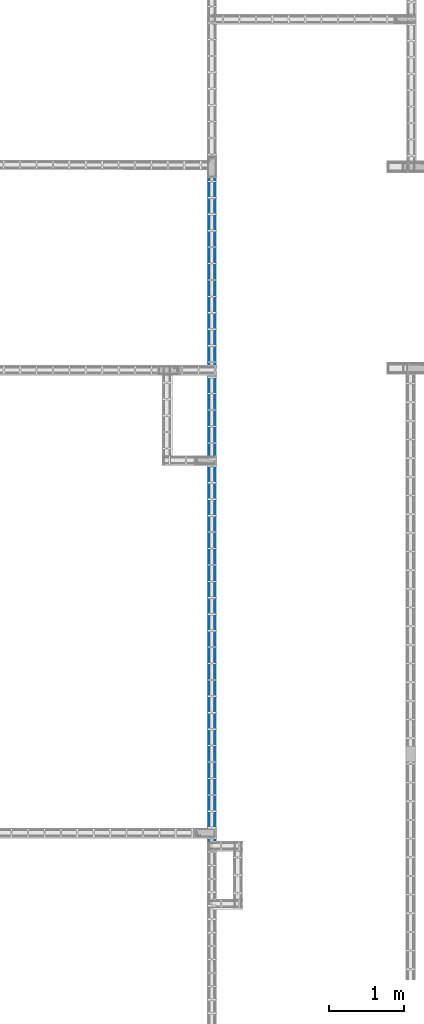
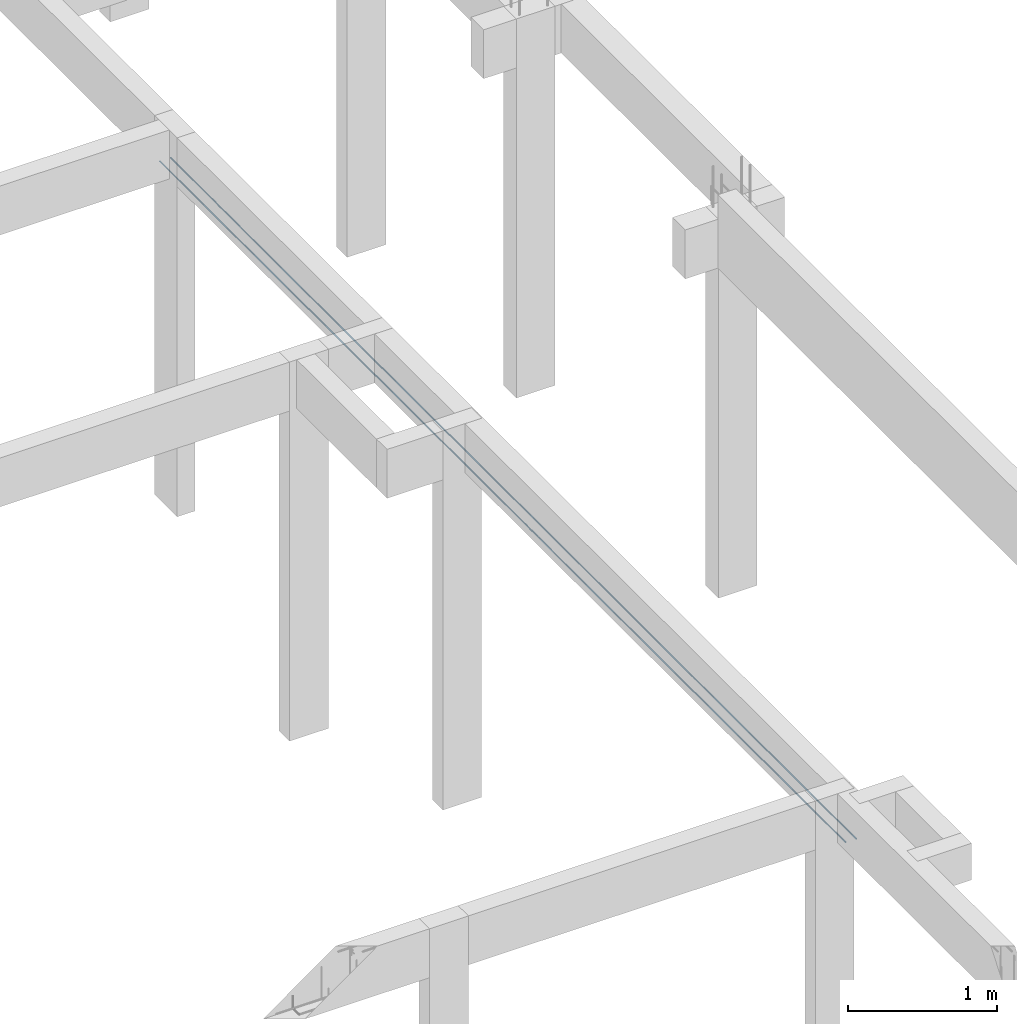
# One storey, part 73 of 236: 2 reinforcing bars.
"""IFC4 building model written with IfcOpenShell, lengths in centimetres."""

from ifc_helpers import new_model, entity, si_unit, derived_unit, frame, origin_with_axes, place, context, project, spatial, element, save


model = new_model("IFC4")

# Units and contexts
model_context = context("Model", 3, precision=1e-05, world=origin_with_axes(), identifier="Body")
ifc_project = project(units=[si_unit("LENGTHUNIT", "METRE", prefix="CENTI"), si_unit("VOLUMEUNIT", "CUBIC_METRE"), si_unit("AREAUNIT", "SQUARE_METRE"), si_unit("POWERUNIT", "WATT"), si_unit("LUMINOUSFLUXUNIT", "LUMEN"), si_unit("ELECTRICCURRENTUNIT", "AMPERE"), si_unit("PRESSUREUNIT", "PASCAL", prefix="KILO"), si_unit("MASSUNIT", "GRAM", prefix="KILO"), si_unit("PLANEANGLEUNIT", "RADIAN"), derived_unit("VOLUMETRICFLOWRATEUNIT", [(si_unit("LENGTHUNIT", "METRE"), 3), (si_unit("TIMEUNIT", "SECOND"), -1)])], contexts=[model_context])

# Site, building, storey
site_placement = place(None, frame((-4000.0, 0.0, 0.0), z_axis=(0.0, 0.0, 1.0), x_axis=(1.0, 0.0, 0.0)))
site = spatial("IfcSite", under=ifc_project, at=site_placement, Name="PADRÃO")
building_placement = place(site_placement, frame((0.0, 0.0, -14.0)))
building = spatial("IfcBuilding", under=site, at=building_placement, Name="CRECHE PRÉ-ESCOLA TIPO 2")
placement_1 = place(building_placement, origin_with_axes())
placement_2 = place(placement_1, frame((0.0, 0.0, 30.0), z_axis=(0.0, 0.0, 1.0), x_axis=(1.0, 0.0, 0.0)))
storey_placement = place(placement_2, frame((0.0, 0.0, 310.0), z_axis=(0.0, 0.0, 1.0), x_axis=(1.0, 0.0, 0.0)))
storey = spatial("IfcBuildingStorey", under=building, at=storey_placement, Name="TERREO", CompositionType="ELEMENT", Elevation=326.0)

# Reinforcing bars
for number, where, z_axis, x_axis, name in (
    (1, (1114.62, 3023.75, -36.7), (0.0, 0.0, 1.0), (1.0, 0.0, 0.0), "V278 - Longitudinal inferior"),
    (2, (1122.82, 3023.75, -36.7), (0.0, 0.0, 1.0), (1.0, 0.0, 0.0), "V278 - Longitudinal inferior"),
):
    element("IfcReinforcingBar", number, at=place(storey_placement, frame(where, z_axis=z_axis, x_axis=x_axis)), inside=storey, Name=name, BarLength=0.0, CrossSectionArea=5.0265482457e-05, NominalDiameter=0.8, PredefinedType="MAIN", context=model_context, shape_type="AdvancedSweptSolid", body=[
        entity("IfcSweptDiskSolid", entity("IfcCompositeCurve", [entity("IfcCompositeCurveSegment", "CONTINUOUS", True, entity("IfcPolyline", [entity("IfcCartesianPoint", [0.0, -459.25, -0.4]), entity("IfcCartesianPoint", [0.0, 459.25, -0.4])]))], False), 0.4),
    ])

save(model, "model.ifc")
